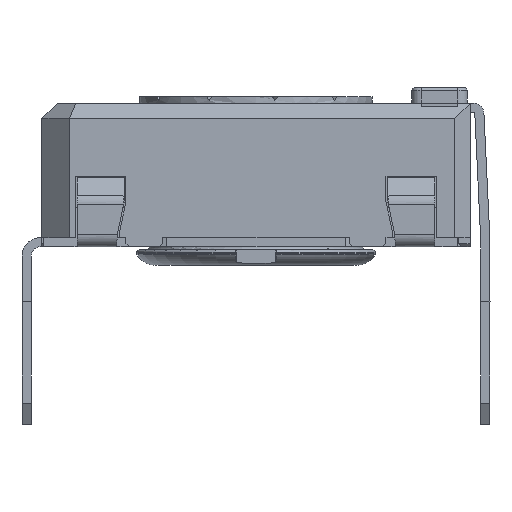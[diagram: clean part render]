
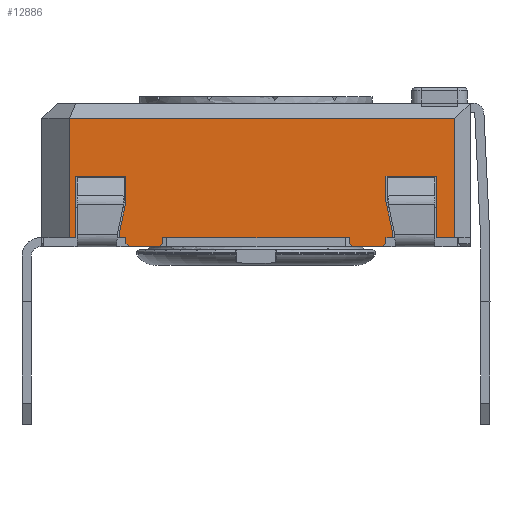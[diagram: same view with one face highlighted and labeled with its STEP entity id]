
A CAD part, left-side view. The second image highlights one B-rep face of the part: STEP entity #12886.
In plain terms, the highlighted planar face has unit normal (-1, 0, 0).
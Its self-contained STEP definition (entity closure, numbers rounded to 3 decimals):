
#966=LINE('',#19654,#2450);
#972=LINE('',#19666,#2456);
#975=LINE('',#19673,#2459);
#980=LINE('',#19682,#2464);
#1000=LINE('',#19723,#2484);
#1014=LINE('',#19749,#2498);
#1018=LINE('',#19756,#2502);
#1033=LINE('',#19785,#2517);
#1036=LINE('',#19791,#2520);
#1041=LINE('',#19801,#2525);
#1044=LINE('',#19807,#2528);
#1047=LINE('',#19813,#2531);
#1065=LINE('',#19848,#2549);
#1077=LINE('',#19870,#2561);
#1080=LINE('',#19876,#2564);
#1117=LINE('',#20010,#2601);
#1125=LINE('',#20024,#2609);
#1134=LINE('',#20042,#2618);
#1139=LINE('',#20052,#2623);
#1141=LINE('',#20055,#2625);
#1265=LINE('',#20363,#2749);
#1267=LINE('',#20368,#2751);
#1270=LINE('',#20372,#2754);
#1272=LINE('',#20376,#2756);
#1275=LINE('',#20384,#2759);
#1276=LINE('',#20386,#2760);
#1277=LINE('',#20387,#2761);
#1278=LINE('',#20388,#2762);
#2450=VECTOR('',#15793,10.);
#2456=VECTOR('',#15801,10.);
#2459=VECTOR('',#15806,10.);
#2464=VECTOR('',#15813,10.);
#2484=VECTOR('',#15847,10.);
#2498=VECTOR('',#15861,10.);
#2502=VECTOR('',#15865,10.);
#2517=VECTOR('',#15892,10.);
#2520=VECTOR('',#15897,10.);
#2525=VECTOR('',#15904,10.);
#2528=VECTOR('',#15909,10.);
#2531=VECTOR('',#15914,10.);
#2549=VECTOR('',#15934,10.);
#2561=VECTOR('',#15948,10.);
#2564=VECTOR('',#15953,10.);
#2601=VECTOR('',#16034,10.);
#2609=VECTOR('',#16044,10.);
#2618=VECTOR('',#16055,10.);
#2623=VECTOR('',#16062,10.);
#2625=VECTOR('',#16066,10.);
#2749=VECTOR('',#16358,10.);
#2751=VECTOR('',#16362,10.);
#2754=VECTOR('',#16367,10.);
#2756=VECTOR('',#16373,10.);
#2759=VECTOR('',#16384,10.);
#2760=VECTOR('',#16385,10.);
#2761=VECTOR('',#16386,10.);
#2762=VECTOR('',#16387,10.);
#3654=FACE_OUTER_BOUND('',#4340,.T.);
#4340=EDGE_LOOP('',(#10260,#10261,#10262,#10263,#10264,#10265,#10266,#10267,
#10268,#10269,#10270,#10271,#10272,#10273,#10274,#10275,#10276,#10277,#10278,
#10279,#10280,#10281,#10282,#10283,#10284,#10285,#10286,#10287));
#5552=VERTEX_POINT('',#19651);
#5553=VERTEX_POINT('',#19653);
#5557=VERTEX_POINT('',#19663);
#5559=VERTEX_POINT('',#19669);
#5561=VERTEX_POINT('',#19672);
#5564=VERTEX_POINT('',#19680);
#5589=VERTEX_POINT('',#19746);
#5590=VERTEX_POINT('',#19748);
#5592=VERTEX_POINT('',#19753);
#5593=VERTEX_POINT('',#19755);
#5600=VERTEX_POINT('',#19782);
#5602=VERTEX_POINT('',#19788);
#5606=VERTEX_POINT('',#19798);
#5608=VERTEX_POINT('',#19804);
#5611=VERTEX_POINT('',#19811);
#5627=VERTEX_POINT('',#19846);
#5636=VERTEX_POINT('',#19868);
#5638=VERTEX_POINT('',#19874);
#5665=VERTEX_POINT('',#20008);
#5670=VERTEX_POINT('',#20022);
#5677=VERTEX_POINT('',#20039);
#5681=VERTEX_POINT('',#20049);
#5755=VERTEX_POINT('',#20360);
#5756=VERTEX_POINT('',#20362);
#5757=VERTEX_POINT('',#20366);
#5758=VERTEX_POINT('',#20367);
#5759=VERTEX_POINT('',#20383);
#5760=VERTEX_POINT('',#20385);
#7042=EDGE_CURVE('',#5553,#5552,#966,.T.);
#7048=EDGE_CURVE('',#5552,#5557,#972,.T.);
#7051=EDGE_CURVE('',#5561,#5559,#975,.T.);
#7056=EDGE_CURVE('',#5564,#5559,#980,.T.);
#7076=EDGE_CURVE('',#5557,#5561,#1000,.T.);
#7090=EDGE_CURVE('',#5590,#5589,#1014,.T.);
#7094=EDGE_CURVE('',#5593,#5592,#1018,.T.);
#7110=EDGE_CURVE('',#5589,#5600,#1033,.T.);
#7113=EDGE_CURVE('',#5600,#5602,#1036,.T.);
#7118=EDGE_CURVE('',#5602,#5606,#1041,.T.);
#7121=EDGE_CURVE('',#5606,#5608,#1044,.T.);
#7124=EDGE_CURVE('',#5608,#5611,#1047,.T.);
#7142=EDGE_CURVE('',#5611,#5627,#1065,.T.);
#7154=EDGE_CURVE('',#5636,#5627,#1077,.T.);
#7157=EDGE_CURVE('',#5638,#5636,#1080,.T.);
#7206=EDGE_CURVE('',#5665,#5638,#1117,.T.);
#7214=EDGE_CURVE('',#5665,#5670,#1125,.T.);
#7223=EDGE_CURVE('',#5670,#5677,#1134,.T.);
#7228=EDGE_CURVE('',#5677,#5681,#1139,.T.);
#7230=EDGE_CURVE('',#5681,#5553,#1141,.T.);
#7370=EDGE_CURVE('',#5755,#5756,#1265,.T.);
#7372=EDGE_CURVE('',#5757,#5758,#1267,.T.);
#7375=EDGE_CURVE('',#5590,#5755,#1270,.T.);
#7377=EDGE_CURVE('',#5592,#5758,#1272,.T.);
#7380=EDGE_CURVE('',#5564,#5759,#1275,.T.);
#7381=EDGE_CURVE('',#5760,#5759,#1276,.T.);
#7382=EDGE_CURVE('',#5593,#5760,#1277,.T.);
#7383=EDGE_CURVE('',#5757,#5756,#1278,.T.);
#10260=ORIENTED_EDGE('',*,*,#7048,.T.);
#10261=ORIENTED_EDGE('',*,*,#7076,.T.);
#10262=ORIENTED_EDGE('',*,*,#7051,.T.);
#10263=ORIENTED_EDGE('',*,*,#7056,.F.);
#10264=ORIENTED_EDGE('',*,*,#7380,.T.);
#10265=ORIENTED_EDGE('',*,*,#7381,.F.);
#10266=ORIENTED_EDGE('',*,*,#7382,.F.);
#10267=ORIENTED_EDGE('',*,*,#7094,.T.);
#10268=ORIENTED_EDGE('',*,*,#7377,.T.);
#10269=ORIENTED_EDGE('',*,*,#7372,.F.);
#10270=ORIENTED_EDGE('',*,*,#7383,.T.);
#10271=ORIENTED_EDGE('',*,*,#7370,.F.);
#10272=ORIENTED_EDGE('',*,*,#7375,.F.);
#10273=ORIENTED_EDGE('',*,*,#7090,.T.);
#10274=ORIENTED_EDGE('',*,*,#7110,.T.);
#10275=ORIENTED_EDGE('',*,*,#7113,.T.);
#10276=ORIENTED_EDGE('',*,*,#7118,.T.);
#10277=ORIENTED_EDGE('',*,*,#7121,.T.);
#10278=ORIENTED_EDGE('',*,*,#7124,.T.);
#10279=ORIENTED_EDGE('',*,*,#7142,.T.);
#10280=ORIENTED_EDGE('',*,*,#7154,.F.);
#10281=ORIENTED_EDGE('',*,*,#7157,.F.);
#10282=ORIENTED_EDGE('',*,*,#7206,.F.);
#10283=ORIENTED_EDGE('',*,*,#7214,.T.);
#10284=ORIENTED_EDGE('',*,*,#7223,.T.);
#10285=ORIENTED_EDGE('',*,*,#7228,.T.);
#10286=ORIENTED_EDGE('',*,*,#7230,.T.);
#10287=ORIENTED_EDGE('',*,*,#7042,.T.);
#12073=PLANE('',#13758);
#12886=ADVANCED_FACE('',(#3654),#12073,.T.);
#13758=AXIS2_PLACEMENT_3D('',#20382,#16382,#16383);
#15793=DIRECTION('',(0.,0.208,-0.978));
#15801=DIRECTION('',(0.,0.,-1.));
#15806=DIRECTION('',(0.,0.,-1.));
#15813=DIRECTION('',(0.,0.707,0.707));
#15847=DIRECTION('',(0.,-1.,0.));
#15861=DIRECTION('',(0.,-1.,0.));
#15865=DIRECTION('',(0.,-1.,0.));
#15892=DIRECTION('',(0.,0.,1.));
#15897=DIRECTION('',(0.,0.208,0.978));
#15904=DIRECTION('',(0.,0.,1.));
#15909=DIRECTION('',(0.,-1.,0.));
#15914=DIRECTION('',(0.,0.,-1.));
#15934=DIRECTION('',(0.,-1.,0.));
#15948=DIRECTION('',(0.,0.,-1.));
#15953=DIRECTION('',(0.,-1.,0.));
#16034=DIRECTION('',(0.,0.,1.));
#16044=DIRECTION('',(0.,-1.,0.));
#16055=DIRECTION('',(0.,0.,1.));
#16062=DIRECTION('',(0.,-1.,0.));
#16066=DIRECTION('',(0.,0.,-1.));
#16358=DIRECTION('',(0.,0.707,-0.707));
#16362=DIRECTION('',(0.,0.707,0.707));
#16367=DIRECTION('',(0.,0.,-1.));
#16373=DIRECTION('',(0.,0.,-1.));
#16382=DIRECTION('center_axis',(-1.,0.,0.));
#16383=DIRECTION('ref_axis',(0.,0.,1.));
#16384=DIRECTION('',(0.,-1.,0.));
#16385=DIRECTION('',(0.,0.707,-0.707));
#16386=DIRECTION('',(0.,0.,-1.));
#16387=DIRECTION('',(0.,-1.,0.));
#19651=CARTESIAN_POINT('',(-14.467,1.552,0.235));
#19653=CARTESIAN_POINT('',(-14.467,1.352,1.176));
#19654=CARTESIAN_POINT('',(-14.467,1.228,1.757));
#19663=CARTESIAN_POINT('',(-14.467,1.552,0.));
#19666=CARTESIAN_POINT('',(-14.467,1.552,0.));
#19669=CARTESIAN_POINT('',(-14.467,1.352,-0.2));
#19672=CARTESIAN_POINT('',(-14.467,1.352,0.));
#19673=CARTESIAN_POINT('',(-14.467,1.352,0.));
#19680=CARTESIAN_POINT('',(-14.467,1.252,-0.3));
#19682=CARTESIAN_POINT('',(-14.467,-1.436,-2.988));
#19723=CARTESIAN_POINT('',(-14.467,4.102,0.));
#19746=CARTESIAN_POINT('',(-14.467,-7.348,0.));
#19748=CARTESIAN_POINT('',(-14.467,-7.148,0.));
#19749=CARTESIAN_POINT('',(-14.467,4.102,0.));
#19753=CARTESIAN_POINT('',(-14.467,-5.948,0.));
#19755=CARTESIAN_POINT('',(-14.467,0.152,0.));
#19756=CARTESIAN_POINT('',(-14.467,4.102,0.));
#19782=CARTESIAN_POINT('',(-14.467,-7.348,0.235));
#19785=CARTESIAN_POINT('',(-14.467,-7.348,0.118));
#19788=CARTESIAN_POINT('',(-14.467,-7.148,1.176));
#19791=CARTESIAN_POINT('',(-14.467,-7.453,-0.254));
#19798=CARTESIAN_POINT('',(-14.467,-7.148,2.));
#19801=CARTESIAN_POINT('',(-14.467,-7.148,0.588));
#19804=CARTESIAN_POINT('',(-14.467,-8.798,2.));
#19807=CARTESIAN_POINT('',(-14.467,-8.523,2.));
#19811=CARTESIAN_POINT('',(-14.467,-8.798,0.));
#19813=CARTESIAN_POINT('',(-14.467,-8.798,0.));
#19846=CARTESIAN_POINT('',(-14.467,-9.398,0.));
#19848=CARTESIAN_POINT('',(-14.467,-9.595,0.));
#19868=CARTESIAN_POINT('',(-14.467,-9.398,3.9));
#19870=CARTESIAN_POINT('',(-14.467,-9.398,0.));
#19874=CARTESIAN_POINT('',(-14.467,3.202,3.9));
#19876=CARTESIAN_POINT('',(-14.467,-6.398,3.9));
#20008=CARTESIAN_POINT('',(-14.467,3.202,0.));
#20010=CARTESIAN_POINT('',(-14.467,3.202,0.));
#20022=CARTESIAN_POINT('',(-14.467,3.002,0.));
#20024=CARTESIAN_POINT('',(-14.467,-2.985,0.));
#20039=CARTESIAN_POINT('',(-14.467,3.002,2.));
#20042=CARTESIAN_POINT('',(-14.467,3.002,0.));
#20049=CARTESIAN_POINT('',(-14.467,1.352,2.));
#20052=CARTESIAN_POINT('',(-14.467,-3.448,2.));
#20055=CARTESIAN_POINT('',(-14.467,1.352,1.));
#20360=CARTESIAN_POINT('',(-14.467,-7.148,-0.2));
#20362=CARTESIAN_POINT('',(-14.467,-7.048,-0.3));
#20363=CARTESIAN_POINT('',(-14.467,-7.861,0.513));
#20366=CARTESIAN_POINT('',(-14.467,-6.048,-0.3));
#20367=CARTESIAN_POINT('',(-14.467,-5.948,-0.2));
#20368=CARTESIAN_POINT('',(-14.467,-6.911,-1.163));
#20372=CARTESIAN_POINT('',(-14.467,-7.148,0.));
#20376=CARTESIAN_POINT('',(-14.467,-5.948,0.));
#20382=CARTESIAN_POINT('Origin',(-14.467,-9.898,0.));
#20383=CARTESIAN_POINT('',(-14.467,0.252,-0.3));
#20384=CARTESIAN_POINT('',(-14.467,0.152,-0.3));
#20385=CARTESIAN_POINT('',(-14.467,0.152,-0.2));
#20386=CARTESIAN_POINT('',(-14.467,-2.386,2.338));
#20387=CARTESIAN_POINT('',(-14.467,0.152,0.));
#20388=CARTESIAN_POINT('',(-14.467,-7.148,-0.3));
